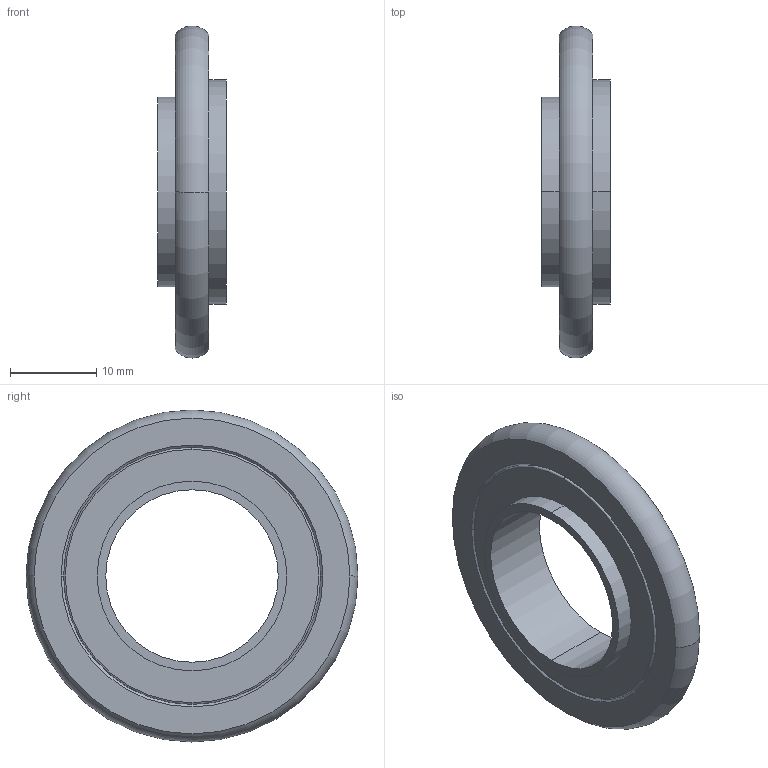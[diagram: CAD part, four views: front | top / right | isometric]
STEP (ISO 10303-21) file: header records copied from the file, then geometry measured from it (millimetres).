
FILE_DESCRIPTION((''),'2;1');
FILE_NAME('18357_18357_88357_DN2_SW0001','2015-10-08T',('l0100062'),('Copyright by Leybold GmbH'),'PRO/ENGINEER BY PARAMETRIC TECHNOLOGY CORPORATION, 2015030','PRO/ENGINEER BY PARAMETRIC TECHNOLOGY CORPORATION, 2015030','');
FILE_SCHEMA(('AUTOMOTIVE_DESIGN { 1 0 10303 214 1 1 1 1 }'));
Length unit declared in the file: millimetre
Products named in the file (1): 18357_18357_88357_DN2_SW0001
Bounding box: 8 x 38.5 x 38.5 mm (x, y, z)
Volume: 3753.7 mm3; surface area: 2905 mm2
Topology: 1 solids, 1 shells, 22 faces, 48 edges, 32 vertices
Faces by surface type: revolution 6, plane 6, cylinder 6, torus 4
Entity records: 1034 total; most frequent: CARTESIAN_POINT 178, DIRECTION 116, ORIENTED_EDGE 96, AXIS2_PLACEMENT_3D 52, EDGE_CURVE 48, COLOUR_RGB 47, FILL_AREA_STYLE_COLOUR 36, FILL_AREA_STYLE 36
